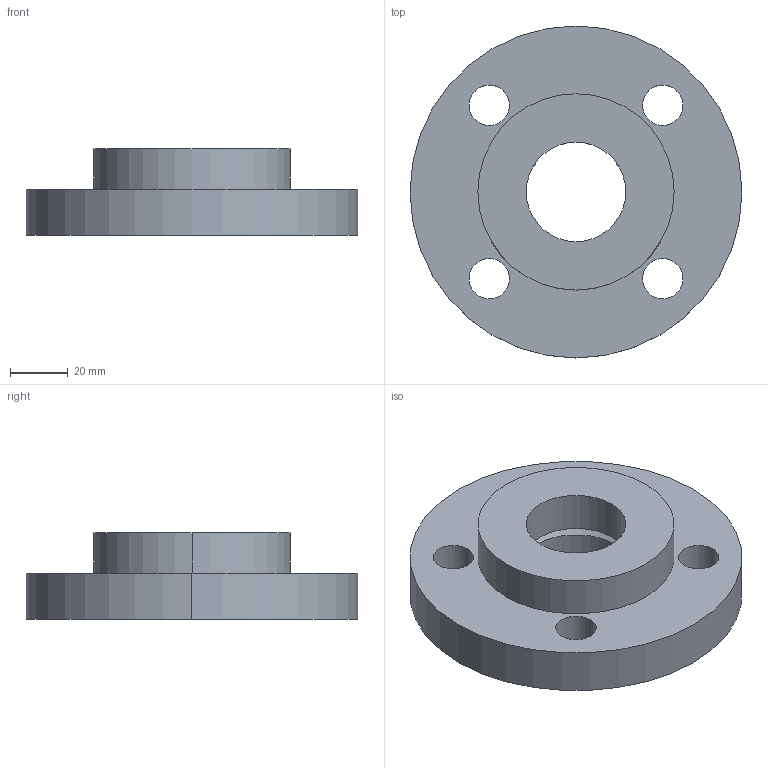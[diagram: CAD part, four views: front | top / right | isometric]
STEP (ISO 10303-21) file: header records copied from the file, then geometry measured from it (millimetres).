
FILE_DESCRIPTION (( 'STEP AP214' ), '1' );
FILE_NAME ('PN40 DN25 Type 02 in 32 - (Type A Face).STEP', '2018-12-29T20:37:18', ( '' ), ( '' ), 'SwSTEP 2.0', 'SolidWorks 2019', '' );
FILE_SCHEMA (( 'AUTOMOTIVE_DESIGN' ));
Length unit declared in the file: millimetre
Products named in the file (1): PN40 DN25 Type 02 in 32 - (Type A Face)
Bounding box: 115 x 115 x 30 mm (x, y, z)
Volume: 174926.4 mm3; surface area: 37422.5 mm2
Topology: 2 solids, 2 shells, 22 faces, 52 edges, 34 vertices
Faces by surface type: cylinder 16, plane 4, cone 2
Entity records: 721 total; most frequent: DIRECTION 132, CARTESIAN_POINT 109, ORIENTED_EDGE 104, AXIS2_PLACEMENT_3D 57, EDGE_CURVE 52, CIRCLE 34, VERTEX_POINT 34, EDGE_LOOP 34
